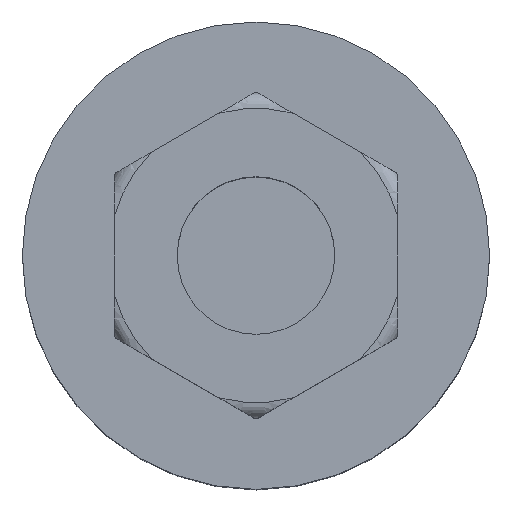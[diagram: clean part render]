
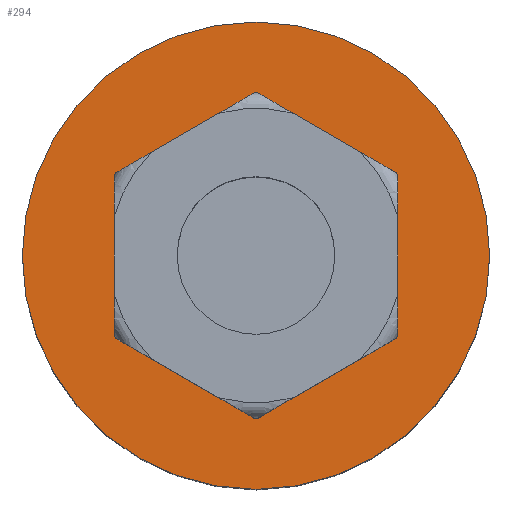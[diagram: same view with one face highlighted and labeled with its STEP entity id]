
A CAD part, top view. The second image highlights one B-rep face of the part: STEP entity #294.
In plain terms, the highlighted planar face has unit normal (0, 0, 1).
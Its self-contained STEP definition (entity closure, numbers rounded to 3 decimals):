
#253=CARTESIAN_POINT('Axis2P3D Location',(0.,0.,-0.01)) ;
#258=CARTESIAN_POINT('Axis2P3D Location',(0.,0.,-0.01)) ;
#262=CARTESIAN_POINT('Vertex',(-22.25,0.,-0.01)) ;
#264=CARTESIAN_POINT('Vertex',(22.25,0.,-0.01)) ;
#267=CARTESIAN_POINT('Axis2P3D Location',(0.,0.,-0.01)) ;
#276=CARTESIAN_POINT('Axis2P3D Location',(0.,0.,-0.01)) ;
#280=CARTESIAN_POINT('Vertex',(-10.8,0.,-0.01)) ;
#282=CARTESIAN_POINT('Vertex',(10.8,0.,-0.01)) ;
#285=CARTESIAN_POINT('Axis2P3D Location',(0.,0.,-0.01)) ;
#254=DIRECTION('Axis2P3D Direction',(0.,0.,-1.)) ;
#255=DIRECTION('Axis2P3D XDirection',(1.,0.,0.)) ;
#259=DIRECTION('Axis2P3D Direction',(0.,0.,-1.)) ;
#268=DIRECTION('Axis2P3D Direction',(0.,0.,-1.)) ;
#277=DIRECTION('Axis2P3D Direction',(0.,0.,-1.)) ;
#286=DIRECTION('Axis2P3D Direction',(0.,0.,-1.)) ;
#256=AXIS2_PLACEMENT_3D('Plane Axis2P3D',#253,#254,#255) ;
#260=AXIS2_PLACEMENT_3D('Circle Axis2P3D',#258,#259,$) ;
#269=AXIS2_PLACEMENT_3D('Circle Axis2P3D',#267,#268,$) ;
#278=AXIS2_PLACEMENT_3D('Circle Axis2P3D',#276,#277,$) ;
#287=AXIS2_PLACEMENT_3D('Circle Axis2P3D',#285,#286,$) ;
#273=ORIENTED_EDGE('',*,*,#266,.F.) ;
#274=ORIENTED_EDGE('',*,*,#271,.F.) ;
#291=ORIENTED_EDGE('',*,*,#284,.T.) ;
#292=ORIENTED_EDGE('',*,*,#289,.T.) ;
#293=FACE_BOUND('',#290,.T.) ;
#294=ADVANCED_FACE('PartBody',(#275,#293),#257,.F.) ;
#261=CIRCLE('generated circle',#260,22.25) ;
#270=CIRCLE('generated circle',#269,22.25) ;
#279=CIRCLE('generated circle',#278,10.8) ;
#288=CIRCLE('generated circle',#287,10.8) ;
#266=EDGE_CURVE('',#263,#265,#261,.T.) ;
#271=EDGE_CURVE('',#265,#263,#270,.T.) ;
#284=EDGE_CURVE('',#281,#283,#279,.T.) ;
#289=EDGE_CURVE('',#283,#281,#288,.T.) ;
#272=EDGE_LOOP('',(#273,#274)) ;
#290=EDGE_LOOP('',(#291,#292)) ;
#275=FACE_OUTER_BOUND('',#272,.T.) ;
#257=PLANE('',#256) ;
#263=VERTEX_POINT('',#262) ;
#265=VERTEX_POINT('',#264) ;
#281=VERTEX_POINT('',#280) ;
#283=VERTEX_POINT('',#282) ;
